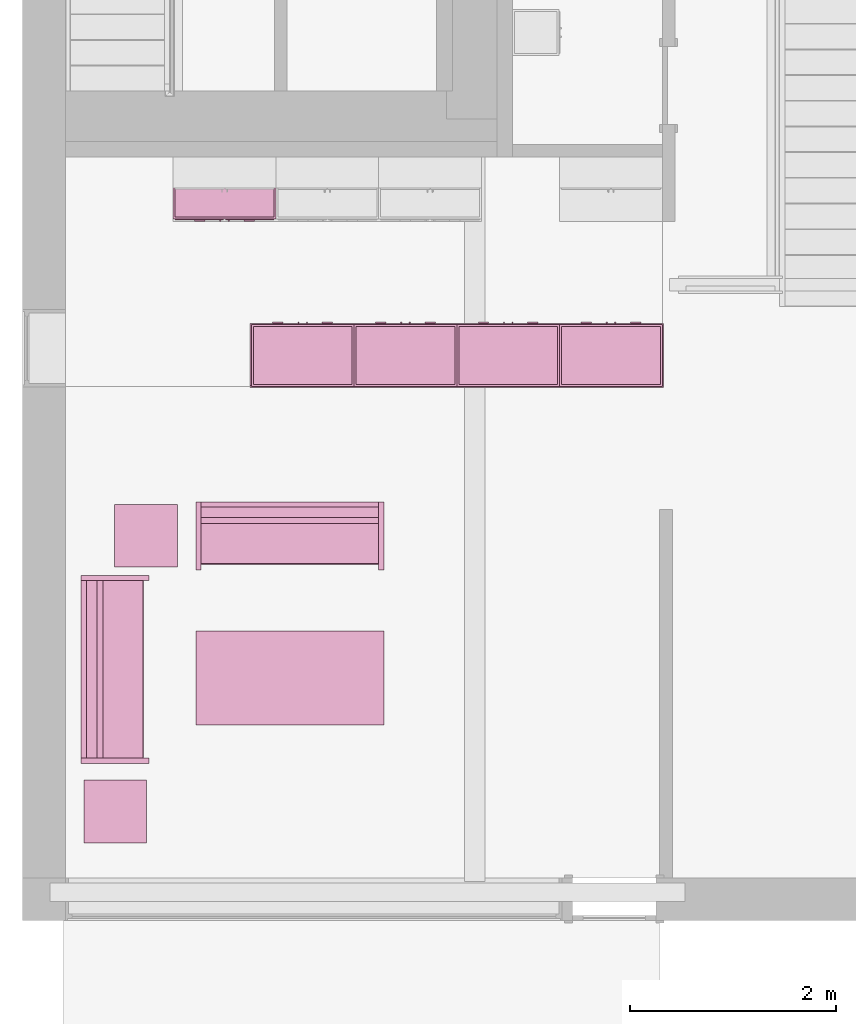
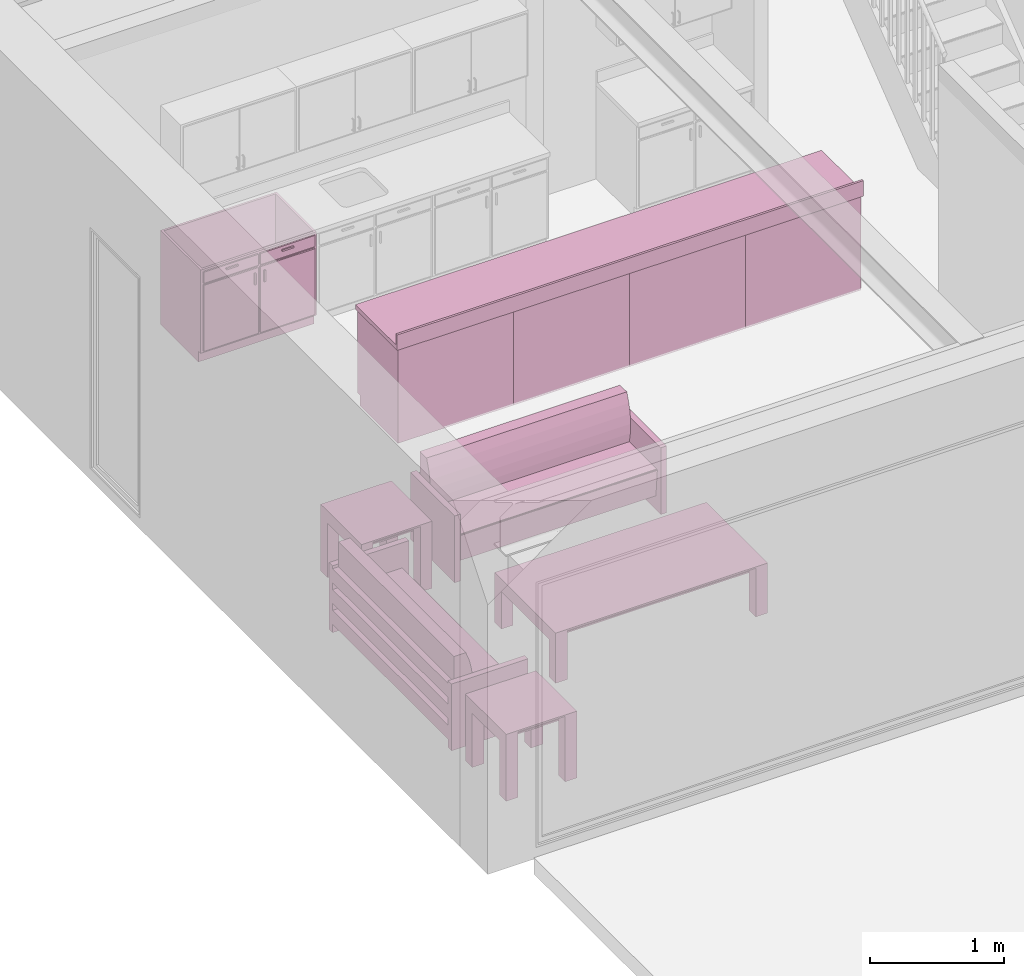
# One storey, part 5 of 14: 11 furnishings.
"""IFC4 building model written with IfcOpenShell, lengths in metres."""

import ifcopenshell
import ifcopenshell.guid

model = None  # the IFC model being written
_history = None  # IfcOwnerHistory: only IFC2X3 demands one
_inside = {}  # id of a spatial element -> (the spatial element, [elements in it])
_under = {}  # id of a project, library or spatial element -> (it, [spatial elements below it])
_declared = {}  # id of a project -> (the project, [libraries it declares])
_typed = {}  # id of a type object -> (the type object, [elements of that type])
_made_of = {}  # id of a material, layer set ... -> (it, [elements and type objects made of it])


def new_model(schema):
    """Start an empty IFC model of exactly this schema.

    Asked for "IFC4X3", IfcOpenShell would pick the latest addendum, in which some entities
    have other attributes; the version numbers below select the first issue.
    IFC2X3 requires an IfcOwnerHistory on every rooted entity: one is made here for all.
    """
    global model, _history
    if schema == "IFC4X3":
        model = ifcopenshell.file(schema_version=(4, 3, 0, 0))
    else:
        model = ifcopenshell.file(schema=schema)
    _inside.clear()
    _under.clear()
    _declared.clear()
    _typed.clear()
    _made_of.clear()
    _history = None
    if model.schema == "IFC2X3":
        org = make("IfcOrganization", Name="unknown")
        user = make(
            "IfcPersonAndOrganization",
            ThePerson=make("IfcPerson", FamilyName="unknown"),
            TheOrganization=org,
        )
        app = make(
            "IfcApplication",
            ApplicationDeveloper=org,
            Version="unknown",
            ApplicationFullName="unknown",
            ApplicationIdentifier="unknown",
        )
        _history = make(
            "IfcOwnerHistory",
            OwningUser=user,
            OwningApplication=app,
            ChangeAction="ADDED",
            CreationDate=0,
        )
    return model


def make(cls, **values):
    """One entity of the class cls with the attributes given. An attribute that is None is left unset."""
    return model.create_entity(
        cls, **{name: value for name, value in values.items() if value is not None}
    )


def entity(cls, *values):
    """Any entity or typed value of the class cls, its attributes in the order of the schema. None: left unset."""
    e = model.create_entity(cls)
    for i, value in enumerate(values):
        if value is not None:
            e[i] = value
    return e


def rooted(cls, **values):
    """An entity with a GlobalId (a new one), such as an element, a storey or a relation."""
    return make(cls, GlobalId=ifcopenshell.guid.new(), OwnerHistory=_history, **values)


def si_unit(unit_type, name, prefix=None):
    """IfcSIUnit, for example si_unit("LENGTHUNIT", "METRE", prefix="MILLI")."""
    return make("IfcSIUnit", UnitType=unit_type, Prefix=prefix, Name=name)


def converted_unit(unit_type, name, factor, base, dimensions=None, offset=None):
    """IfcConversionBasedUnit, such as the inch: factor (a typed value) times the base unit."""
    return make(
        "IfcConversionBasedUnit"
        if offset is None
        else "IfcConversionBasedUnitWithOffset",
        ConversionOffset=offset,
        Dimensions=None
        if dimensions is None
        else entity("IfcDimensionalExponents", *dimensions),
        UnitType=unit_type,
        Name=name,
        ConversionFactor=make(
            "IfcMeasureWithUnit", ValueComponent=factor, UnitComponent=base
        ),
    )


def assignment(units):
    """IfcUnitAssignment: the units of a project."""
    return None if units is None else make("IfcUnitAssignment", Units=units)


def point(xyz):
    """IfcCartesianPoint."""
    return None if xyz is None else make("IfcCartesianPoint", Coordinates=xyz)


def direction(xyz):
    """IfcDirection."""
    return None if xyz is None else make("IfcDirection", DirectionRatios=xyz)


def frame(location, z_axis=None, x_axis=None):
    """IfcAxis2Placement3D, a coordinate frame: its origin and axes. An axis left out is left unset."""
    return make(
        "IfcAxis2Placement3D",
        Location=point(location),
        Axis=direction(z_axis),
        RefDirection=direction(x_axis),
    )


def frame_2d(location, x_axis=None):
    """IfcAxis2Placement2D, a coordinate frame in the plane: its origin and x axis."""
    return make(
        "IfcAxis2Placement2D", Location=point(location), RefDirection=direction(x_axis)
    )


def origin():
    """The frame at (0, 0, 0) with its axes left unset."""
    return frame((0.0, 0.0, 0.0))


def origin_2d_with_axis():
    """The frame at (0, 0) in the plane with the x axis (1, 0) written out."""
    return frame_2d((0.0, 0.0), x_axis=(1.0, 0.0))


def place(relative_to, where):
    """IfcLocalPlacement: puts the frame where relative to a parent placement (None: the world)."""
    return make(
        "IfcLocalPlacement", PlacementRelTo=relative_to, RelativePlacement=where
    )


def context(
    kind, dimensions, precision=None, world=None, true_north=None, identifier=None
):
    """IfcGeometricRepresentationContext, for example the 3D "Model" context."""
    return make(
        "IfcGeometricRepresentationContext",
        ContextIdentifier=identifier,
        ContextType=kind,
        CoordinateSpaceDimension=dimensions,
        Precision=precision,
        WorldCoordinateSystem=world,
        TrueNorth=true_north,
    )


def project(units=None, contexts=None):
    """IfcProject with its units and contexts."""
    return rooted(
        "IfcProject",
        Name="project",
        RepresentationContexts=contexts,
        UnitsInContext=assignment(units),
    )


def spatial(cls, under=None, at=None, **own):
    """A site, building, storey or space (cls), placed at a placement, below another one or the project."""
    s = rooted(cls, ObjectPlacement=at, **own)
    if under is not None:
        _under.setdefault(under.id(), (under, []))[1].append(s)
    return s


def polyline(points):
    """IfcPolyline through the points."""
    return make("IfcPolyline", Points=[point(p) for p in points])


def profile(cls, at=None, kind="AREA", **sizes):
    """A parametric profile (cls). Its sizes go by their IFC names, for example OverallWidth=200.0."""
    return make(cls, ProfileType=kind, Position=at, **sizes)


def rectangle(**sizes):
    """IfcRectangleProfileDef."""
    return profile("IfcRectangleProfileDef", **sizes)


def outline(outer, holes=None, kind="AREA"):
    """IfcArbitraryClosedProfileDef: a profile drawn as a closed curve; with holes, ...WithVoids."""
    if holes is None:
        return make("IfcArbitraryClosedProfileDef", ProfileType=kind, OuterCurve=outer)
    return make(
        "IfcArbitraryProfileDefWithVoids",
        ProfileType=kind,
        OuterCurve=outer,
        InnerCurves=holes,
    )


def extrude(swept, where, along, depth):
    """IfcExtrudedAreaSolid: the profile swept, set in the frame where, extruded along a direction by depth."""
    return make(
        "IfcExtrudedAreaSolid",
        SweptArea=swept,
        Position=where,
        ExtrudedDirection=direction(along),
        Depth=depth,
    )


def faces_of(points, faces, orient=None, outer=None):
    """IfcFace entities. A face is a list of loops; a loop is a list of indices into points, from 0.

    orient and outer hold one flag for each loop. By default every Orientation is true, the
    first loop of a face is its IfcFaceOuterBound and the others are IfcFaceBound.
    """
    made = []
    for i, loops in enumerate(faces):
        bounds = []
        for j, loop in enumerate(loops):
            is_outer = j == 0 if outer is None else outer[i][j]
            bounds.append(
                make(
                    "IfcFaceOuterBound" if is_outer else "IfcFaceBound",
                    Bound=make("IfcPolyLoop", Polygon=[points[k] for k in loop]),
                    Orientation=True if orient is None else orient[i][j],
                )
            )
        made.append(make("IfcFace", Bounds=bounds))
    return made


def face_set(faces, orient=None, outer=None):
    """The faces of one IfcConnectedFaceSet. surface_model builds it on its shared points."""
    return ("IfcConnectedFaceSet", faces, orient, outer)


def surface_model(cls, points, shells):
    """IfcFaceBasedSurfaceModel or IfcShellBasedSurfaceModel (cls): surfaces that need not close."""
    shared = [point(p) for p in points]
    made = [make(c, CfsFaces=faces_of(shared, fs, o, b)) for c, fs, o, b in shells]
    if cls == "IfcFaceBasedSurfaceModel":
        return make(cls, FbsmFaces=made)
    return make(cls, SbsmBoundary=made)


def shape(context_of_items, identifier, shape_type, items):
    """IfcShapeRepresentation: the items that make up one representation, for example the "Body"."""
    return make(
        "IfcShapeRepresentation",
        ContextOfItems=context_of_items,
        RepresentationIdentifier=identifier,
        RepresentationType=shape_type,
        Items=items,
    )


def source(mapping_origin, context_of_items, identifier, shape_type, items):
    """IfcRepresentationMap: a shape defined once, which mapped items show again and again."""
    return make(
        "IfcRepresentationMap",
        MappingOrigin=mapping_origin,
        MappedRepresentation=shape(context_of_items, identifier, shape_type, items),
    )


def transform(
    local_origin,
    x_axis=None,
    y_axis=None,
    z_axis=None,
    scale=None,
    scale2=None,
    scale3=None,
    uniform=True,
):
    """IfcCartesianTransformationOperator3D, or its non-uniform kind. x_axis, y_axis, z_axis: its Axis1, 2, 3."""
    if uniform:
        return make(
            "IfcCartesianTransformationOperator3D",
            Axis1=direction(x_axis),
            Axis2=direction(y_axis),
            LocalOrigin=point(local_origin),
            Scale=scale,
            Axis3=direction(z_axis),
        )
    return make(
        "IfcCartesianTransformationOperator3DnonUniform",
        Axis1=direction(x_axis),
        Axis2=direction(y_axis),
        LocalOrigin=point(local_origin),
        Scale=scale,
        Axis3=direction(z_axis),
        Scale2=scale2,
        Scale3=scale3,
    )


def mapped(mapping_source, mapping_target):
    """IfcMappedItem: shows the shape of a source again, moved by a transform."""
    return make(
        "IfcMappedItem", MappingSource=mapping_source, MappingTarget=mapping_target
    )


def made_of(thing, what):
    """Note that an element or type object is made of a material, layer set ...; save() writes the relation."""
    if what is not None:
        _made_of.setdefault(what.id(), (what, []))[1].append(thing)
    return thing


def element(
    cls,
    number,
    at=None,
    inside=None,
    cuts=None,
    type_object=None,
    material=None,
    context=None,
    identifier="Body",
    shape_type=None,
    held_by="IfcProductDefinitionShape",
    body=None,
    shapes=None,
    **own,
):
    """One element of the class cls, such as IfcWall. Its Tag is "e" and its number.

    at: its placement. inside: the storey or other place that contains it. cuts: it is an
    opening in that element (IfcRelVoidsElement). A single representation is given by context,
    identifier, shape_type and body (its items); several are given by shapes. held_by: the class
    of the entity that holds the representations. save() writes the other relations.
    """
    e = rooted(cls, Tag="e%d" % number, ObjectPlacement=at, **own)
    if body is not None:
        shapes = [shape(context, identifier, shape_type, body)]
    if shapes is not None:
        e.Representation = make(held_by, Representations=shapes)
    if inside is not None:
        _inside.setdefault(inside.id(), (inside, []))[1].append(e)
    if cuts is not None:
        rooted(
            "IfcRelVoidsElement", RelatingBuildingElement=cuts, RelatedOpeningElement=e
        )
    if type_object is not None:
        _typed.setdefault(type_object.id(), (type_object, []))[1].append(e)
    return made_of(e, material)


def aggregate(whole, parts):
    """IfcRelAggregates: a whole, such as a stair, and the parts it consists of."""
    return rooted("IfcRelAggregates", RelatingObject=whole, RelatedObjects=parts)


def save(model, path):
    """Write the relations noted so far, then the file.

    IfcRelAggregates (storeys below a building ...), IfcRelContainedInSpatialStructure (elements
    in a storey), IfcRelDefinesByType, IfcRelAssociatesMaterial and IfcRelDeclares: one each for
    every whole, place, type object, material and project.
    """
    for whole, parts in _under.values():
        aggregate(whole, parts)
    for where, things in _inside.values():
        rooted(
            "IfcRelContainedInSpatialStructure",
            RelatedElements=things,
            RelatingStructure=where,
        )
    for kind, things in _typed.values():
        rooted("IfcRelDefinesByType", RelatedObjects=things, RelatingType=kind)
    for what, things in _made_of.values():
        rooted("IfcRelAssociatesMaterial", RelatedObjects=things, RelatingMaterial=what)
    for by, libraries in _declared.values():
        rooted("IfcRelDeclares", RelatingContext=by, RelatedDefinitions=libraries)
    model.write(path)


model = new_model("IFC4")

# Units and contexts
model_context = context("Model", 3, precision=1e-09, world=origin())
plan_context = context("Plan", 3, precision=1e-09, world=origin())
ifc_project = project(units=[si_unit("LENGTHUNIT", "METRE"), si_unit("AREAUNIT", "SQUARE_METRE"), si_unit("VOLUMEUNIT", "CUBIC_METRE"), converted_unit("PLANEANGLEUNIT", "DEGREE", entity("IfcRatioMeasure", 0.01745329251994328), si_unit("PLANEANGLEUNIT", "RADIAN"), dimensions=[0, 0, 0, 0, 0, 0, 0]), si_unit("TIMEUNIT", "SECOND")], contexts=[model_context, plan_context])

# Site, building, storey, space
site_placement = place(None, origin())
site = spatial("IfcSite", under=ifc_project, at=site_placement, Name="Default", CompositionType="ELEMENT")
building_placement = place(site_placement, origin())
building = spatial("IfcBuilding", under=site, at=building_placement, CompositionType="ELEMENT")
storey_placement = place(building_placement, origin())
storey = spatial("IfcBuildingStorey", under=building, at=storey_placement, Name="Level 1", CompositionType="ELEMENT", Elevation=0.0)
space_1_placement = place(storey_placement, origin())
space_1 = spatial("IfcSpace", under=storey, at=space_1_placement, Name="A103", CompositionType="ELEMENT", PredefinedType="INTERNAL")

# Furnishings
shared_shape_1 = source(origin(), model_context, "Body", "SurfaceModel", [
    surface_model("IfcFaceBasedSurfaceModel", [(0.9809499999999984, 0.04445000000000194, 0.8600000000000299), (0.9809499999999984, 0.04445000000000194, 0.0999999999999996), (0.01905000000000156, 0.04445000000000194, 0.0999999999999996), (0.01905000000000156, 0.04445000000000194, 0.8600000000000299), (1.0, 0.02540000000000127, 0.8600000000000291), (0.0, 0.02540000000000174, 0.8600000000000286), (1.0, 0.02540000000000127, 0.0999999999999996), (0.0, 0.02540000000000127, 0.09999999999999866), (0.01905000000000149, 0.606349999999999, 0.8600000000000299), (0.01905000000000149, 0.606349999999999, 0.09999999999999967), (0.01905000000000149, 0.06040000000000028, 0.0999999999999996), (0.0, 0.6253999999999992, 0.8600000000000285), (0.0, 0.6254000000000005, 0.0), (0.0, 0.06040000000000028, 0.0), (0.0, 0.06040000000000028, 0.09999999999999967), (0.9809499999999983, 0.6063499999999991, 0.8600000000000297), (0.9809499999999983, 0.6063499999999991, 0.09999999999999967), (1.0, 0.6253999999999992, 0.8600000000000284), (1.0, 0.6253999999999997, 0.0), (0.9809499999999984, 0.06040000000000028, 0.09999999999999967), (1.0, 0.06040000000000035, 0.09999999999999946), (1.0, 0.06040000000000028, 0.0), (0.3103250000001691, 0.0, 0.815550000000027), (0.3103250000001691, 0.0, 0.8028500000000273), (0.2087250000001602, 0.0, 0.8028500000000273), (0.2087250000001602, 0.0, 0.815550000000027), (0.7912750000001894, 0.0, 0.815550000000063), (0.7912750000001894, 0.0, 0.8028500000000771), (0.6896750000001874, 0.0, 0.8028500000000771), (0.6896750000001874, 0.0, 0.815550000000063), (0.4650750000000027, 0.0, 0.6822000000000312), (0.4650750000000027, 0.0, 0.5806000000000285), (0.4523750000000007, 0.0, 0.5806000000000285), (0.4523750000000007, 0.0, 0.6822000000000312), (0.5476249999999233, 0.0, 0.6822000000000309), (0.5476249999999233, 0.0, 0.5806000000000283), (0.5349249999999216, 0.0, 0.5806000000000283), (0.5349249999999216, 0.0, 0.6822000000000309), (0.3103250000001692, 0.01270000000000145, 0.815550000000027), (0.3103250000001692, 0.01270000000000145, 0.8028500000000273), (0.2087250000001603, 0.01270000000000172, 0.8028500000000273), (0.2087250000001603, 0.01270000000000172, 0.815550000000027), (0.7912750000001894, 0.01269999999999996, 0.815550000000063), (0.7912750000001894, 0.01269999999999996, 0.8028500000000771), (0.6896750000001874, 0.01270000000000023, 0.8028500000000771), (0.6896750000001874, 0.01270000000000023, 0.815550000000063), (0.4650750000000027, 0.0127000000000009, 0.6822000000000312), (0.4650750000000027, 0.0127000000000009, 0.5806000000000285), (0.4523750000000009, 0.0127000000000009, 0.5806000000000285), (0.4523750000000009, 0.0127000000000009, 0.6822000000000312), (0.5476249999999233, 0.01270000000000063, 0.6822000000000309), (0.5476249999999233, 0.01270000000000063, 0.5806000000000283), (0.5349249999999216, 0.01270000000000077, 0.5806000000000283), (0.5349249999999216, 0.01270000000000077, 0.6822000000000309), (0.4904749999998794, 0.0127000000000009, 0.840950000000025), (0.4904749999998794, 0.0127000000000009, 0.7393500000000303), (0.01905000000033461, 0.01270000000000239, 0.7393500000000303), (0.01905000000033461, 0.01270000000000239, 0.840950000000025), (0.9809500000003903, 0.01269999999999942, 0.8409500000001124), (0.9809500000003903, 0.01269999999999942, 0.7393500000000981), (0.509524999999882, 0.0127000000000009, 0.7393500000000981), (0.509524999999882, 0.0127000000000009, 0.8409500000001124), (0.4904749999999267, 0.0127000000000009, 0.7203000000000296), (0.4904749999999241, 0.0127000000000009, 0.119049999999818), (0.01905000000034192, 0.01270000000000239, 0.119049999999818), (0.01905000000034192, 0.01270000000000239, 0.7203000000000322), (0.9809500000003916, 0.01269999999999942, 0.7203000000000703), (0.9809500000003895, 0.01269999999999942, 0.1190499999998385), (0.5095249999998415, 0.0127000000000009, 0.1190499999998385), (0.5095249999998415, 0.0127000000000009, 0.7203000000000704), (0.4904749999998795, 0.02540000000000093, 0.840950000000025), (0.4904749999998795, 0.02540000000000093, 0.7393500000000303), (0.01905000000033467, 0.02540000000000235, 0.7393500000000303), (0.01905000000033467, 0.02540000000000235, 0.840950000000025), (0.9809500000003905, 0.02539999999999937, 0.8409500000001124), (0.9809500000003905, 0.02539999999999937, 0.7393500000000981), (0.5095249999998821, 0.02540000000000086, 0.7393500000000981), (0.5095249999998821, 0.02540000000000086, 0.8409500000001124), (0.4904749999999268, 0.02540000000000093, 0.7203000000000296), (0.4904749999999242, 0.02540000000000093, 0.119049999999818), (0.01905000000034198, 0.02540000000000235, 0.119049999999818), (0.01905000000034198, 0.02540000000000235, 0.7203000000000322), (0.9809500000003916, 0.02539999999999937, 0.7203000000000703), (0.9809500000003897, 0.02539999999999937, 0.1190499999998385), (0.5095249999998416, 0.02540000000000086, 0.1190499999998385), (0.5095249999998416, 0.02540000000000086, 0.7203000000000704), (0.9809499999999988, 0.6063499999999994, 0.1190499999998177), (0.9809499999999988, 0.04445000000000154, 0.1190499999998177), (0.01905000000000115, 0.04445000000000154, 0.1190499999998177), (0.01905000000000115, 0.6063499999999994, 0.1190499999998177), (0.9809499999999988, 0.6063499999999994, 0.09999999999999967), (0.9809499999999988, 0.04445000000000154, 0.09999999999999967), (0.01905000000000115, 0.04445000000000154, 0.09999999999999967), (0.01905000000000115, 0.6063499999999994, 0.09999999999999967)], [face_set([[[0, 1, 2, 3]], [[0, 4, 5, 3]], [[4, 6, 7, 5]], [[2, 1, 6, 7]], [[3, 8, 9, 10, 2]], [[5, 11, 8, 3]], [[7, 5, 11, 12, 13, 14]], [[2, 7, 14, 10]], [[8, 15, 16, 9]], [[11, 17, 15, 8]], [[12, 11, 17, 18]], [[1, 19, 16, 15, 0]], [[0, 15, 17, 4]], [[4, 6, 20, 21, 18, 17]], [[6, 1, 19, 20]], [[10, 9, 16, 19]], [[18, 21, 13, 12]], [[13, 14, 10, 19, 20, 21]]]), face_set([[[22, 23, 24, 25]], [[26, 27, 28, 29]], [[30, 31, 32, 33]], [[34, 35, 36, 37]], [[38, 39, 40, 41]], [[42, 43, 44, 45]], [[46, 47, 48, 49]], [[50, 51, 52, 53]], [[25, 41, 38, 22]], [[24, 40, 41, 25]], [[23, 24, 40, 39]], [[22, 23, 39, 38]], [[29, 45, 42, 26]], [[28, 44, 45, 29]], [[27, 28, 44, 43]], [[26, 27, 43, 42]], [[33, 49, 46, 30]], [[32, 48, 49, 33]], [[31, 32, 48, 47]], [[30, 31, 47, 46]], [[37, 53, 50, 34]], [[36, 52, 53, 37]], [[35, 36, 52, 51]], [[34, 35, 51, 50]]]), face_set([[[54, 55, 56, 57]], [[58, 59, 60, 61]], [[62, 63, 64, 65]], [[66, 67, 68, 69]], [[70, 71, 72, 73]], [[74, 75, 76, 77]], [[78, 79, 80, 81]], [[82, 83, 84, 85]], [[57, 73, 70, 54]], [[56, 57, 73, 72]], [[55, 56, 72, 71]], [[54, 55, 71, 70]], [[61, 77, 74, 58]], [[60, 76, 77, 61]], [[59, 60, 76, 75]], [[58, 59, 75, 74]], [[65, 81, 78, 62]], [[64, 65, 81, 80]], [[63, 64, 80, 79]], [[62, 63, 79, 78]], [[69, 85, 82, 66]], [[68, 84, 85, 69]], [[67, 68, 84, 83]], [[66, 67, 83, 82]]]), face_set([[[86, 87, 88, 89]], [[90, 91, 92, 93]], [[89, 86, 90, 93]], [[88, 89, 93, 92]], [[87, 91, 92, 88]], [[86, 87, 91, 90]]])]),
])
for number, where, z_axis, x_axis in (
    (1, (6.225999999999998, -11.9746, 0.0), (0.0, 0.0, 1.0), (-1.0, 0.0, 0.0)),
    (2, (5.225999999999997, -11.9746, 0.0), (0.0, 0.0, 1.0), (-1.0, 0.0, 0.0)),
    (3, (4.225999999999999, -11.97460000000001, 0.0), (0.0, 0.0, 1.0), (-1.0, 0.0, 0.0)),
    (4, (3.225999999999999, -11.97460000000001, 0.0), (0.0, 0.0, 1.0), (-1.0, 0.0, 0.0)),
):
    element("IfcFurnishingElement", number, at=place(space_1_placement, frame(where, z_axis=z_axis, x_axis=x_axis)), inside=space_1, Name="M_Base Cabinet-Double Door & 2 Drawer:1000mm:1000mm", ObjectType="1000mm", context=model_context, shape_type="MappedRepresentation", body=[
        mapped(shared_shape_1, transform((0.0, 0.0, 0.0), scale=1.0)),
    ])
shared_shape_2 = source(origin(), model_context, "Body", "SurfaceModel", [
    surface_model("IfcFaceBasedSurfaceModel", [(0.9809499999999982, 0.5809499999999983, 0.8600000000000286), (0.01905000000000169, 0.5809499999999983, 0.8600000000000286), (0.01905000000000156, 0.5809499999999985, 0.0999999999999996), (0.9809499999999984, 0.5809499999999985, 0.0999999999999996), (0.0, 0.5999999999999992, 0.8600000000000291), (1.0, 0.5999999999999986, 0.8600000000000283), (0.0, 0.5999999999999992, 0.0999999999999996), (1.0, 0.5999999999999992, 0.09999999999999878), (0.01905000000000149, 0.5650000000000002, 0.09999999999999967), (0.01905000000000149, 0.01905000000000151, 0.0999999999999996), (0.01905000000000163, 0.01905000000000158, 0.8600000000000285), (0.0, 0.0, 0.860000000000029), (0.0, 0.0, 0.0), (0.0, 0.5650000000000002, 0.0), (0.0, 0.5650000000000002, 0.0999999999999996), (0.9809499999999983, 0.01905000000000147, 0.09999999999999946), (0.9809499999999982, 0.01905000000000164, 0.8600000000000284), (1.0, 0.0, 0.8600000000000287), (1.0, 0.0, 0.0), (0.9809499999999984, 0.5650000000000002, 0.09999999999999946), (1.0, 0.5650000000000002, 0.0), (1.0, 0.5650000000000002, 0.09999999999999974), (0.3103250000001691, 0.625399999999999, 0.815550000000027), (0.2087250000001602, 0.6253999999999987, 0.815550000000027), (0.2087250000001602, 0.6253999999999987, 0.8028500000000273), (0.3103250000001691, 0.625399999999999, 0.8028500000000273), (0.7912750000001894, 0.6254000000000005, 0.815550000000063), (0.6896750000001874, 0.6254000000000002, 0.815550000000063), (0.6896750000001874, 0.6254000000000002, 0.8028500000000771), (0.7912750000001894, 0.6254000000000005, 0.8028500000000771), (0.4650750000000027, 0.6253999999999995, 0.6822000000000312), (0.4523750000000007, 0.6253999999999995, 0.6822000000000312), (0.4523750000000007, 0.6253999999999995, 0.5806000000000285), (0.4650750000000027, 0.6253999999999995, 0.5806000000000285), (0.5476249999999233, 0.6253999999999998, 0.6822000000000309), (0.5349249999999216, 0.6253999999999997, 0.6822000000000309), (0.5349249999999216, 0.6253999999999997, 0.5806000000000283), (0.5476249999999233, 0.6253999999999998, 0.5806000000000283), (0.3103250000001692, 0.612699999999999, 0.815550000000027), (0.2087250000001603, 0.6126999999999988, 0.815550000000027), (0.2087250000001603, 0.6126999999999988, 0.8028500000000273), (0.3103250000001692, 0.612699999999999, 0.8028500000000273), (0.7912750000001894, 0.6127000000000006, 0.815550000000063), (0.6896750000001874, 0.6127000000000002, 0.815550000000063), (0.6896750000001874, 0.6127000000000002, 0.8028500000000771), (0.7912750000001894, 0.6127000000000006, 0.8028500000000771), (0.4650750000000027, 0.6126999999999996, 0.6822000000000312), (0.4523750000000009, 0.6126999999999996, 0.6822000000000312), (0.4523750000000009, 0.6126999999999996, 0.5806000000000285), (0.4650750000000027, 0.6126999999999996, 0.5806000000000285), (0.5476249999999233, 0.6126999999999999, 0.6822000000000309), (0.5349249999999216, 0.6126999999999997, 0.6822000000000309), (0.5349249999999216, 0.6126999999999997, 0.5806000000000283), (0.5476249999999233, 0.6126999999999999, 0.5806000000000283), (0.4904749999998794, 0.6126999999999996, 0.840950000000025), (0.01905000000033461, 0.6126999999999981, 0.840950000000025), (0.01905000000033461, 0.6126999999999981, 0.7393500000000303), (0.4904749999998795, 0.6126999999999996, 0.7393500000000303), (0.9809500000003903, 0.6127000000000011, 0.8409500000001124), (0.509524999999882, 0.6126999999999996, 0.8409500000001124), (0.509524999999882, 0.6126999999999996, 0.7393500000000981), (0.9809500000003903, 0.6127000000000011, 0.7393500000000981), (0.4904749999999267, 0.6126999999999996, 0.7203000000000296), (0.01905000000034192, 0.6126999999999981, 0.7203000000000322), (0.01905000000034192, 0.6126999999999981, 0.119049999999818), (0.4904749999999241, 0.6126999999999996, 0.119049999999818), (0.9809500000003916, 0.6127000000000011, 0.7203000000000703), (0.5095249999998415, 0.6126999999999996, 0.7203000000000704), (0.5095249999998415, 0.6126999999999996, 0.1190499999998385), (0.9809500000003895, 0.6127000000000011, 0.1190499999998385), (0.4904749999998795, 0.5999999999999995, 0.840950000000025), (0.01905000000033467, 0.5999999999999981, 0.840950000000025), (0.01905000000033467, 0.5999999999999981, 0.7393500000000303), (0.4904749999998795, 0.5999999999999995, 0.7393500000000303), (0.9809500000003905, 0.6000000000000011, 0.8409500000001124), (0.5095249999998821, 0.5999999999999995, 0.8409500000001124), (0.5095249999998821, 0.5999999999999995, 0.7393500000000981), (0.9809500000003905, 0.6000000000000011, 0.7393500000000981), (0.4904749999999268, 0.5999999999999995, 0.7203000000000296), (0.01905000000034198, 0.5999999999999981, 0.7203000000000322), (0.01905000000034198, 0.5999999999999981, 0.119049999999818), (0.4904749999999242, 0.5999999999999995, 0.119049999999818), (0.9809500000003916, 0.6000000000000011, 0.7203000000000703), (0.5095249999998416, 0.5999999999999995, 0.7203000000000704), (0.5095249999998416, 0.5999999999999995, 0.1190499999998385), (0.9809500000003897, 0.6000000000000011, 0.1190499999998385), (0.9809499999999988, 0.0190500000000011, 0.1190499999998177), (0.01905000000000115, 0.0190500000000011, 0.1190499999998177), (0.01905000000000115, 0.5809499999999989, 0.1190499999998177), (0.9809499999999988, 0.5809499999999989, 0.1190499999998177), (0.9809499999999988, 0.01905000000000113, 0.09999999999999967), (0.01905000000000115, 0.0190500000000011, 0.09999999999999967), (0.01905000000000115, 0.5809499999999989, 0.09999999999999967), (0.9809499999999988, 0.5809499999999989, 0.09999999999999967)], [face_set([[[0, 1, 2, 3]], [[0, 1, 4, 5]], [[5, 4, 6, 7]], [[2, 6, 7, 3]], [[1, 2, 8, 9, 10]], [[4, 1, 10, 11]], [[6, 4, 11, 12, 13, 14]], [[2, 8, 14, 6]], [[10, 9, 15, 16]], [[11, 10, 16, 17]], [[12, 18, 17, 11]], [[3, 0, 16, 15, 19]], [[0, 5, 17, 16]], [[5, 17, 18, 20, 21, 7]], [[7, 21, 19, 3]], [[8, 19, 15, 9]], [[18, 12, 13, 20]], [[13, 20, 21, 19, 8, 14]]]), face_set([[[22, 23, 24, 25]], [[26, 27, 28, 29]], [[30, 31, 32, 33]], [[34, 35, 36, 37]], [[38, 39, 40, 41]], [[42, 43, 44, 45]], [[46, 47, 48, 49]], [[50, 51, 52, 53]], [[23, 22, 38, 39]], [[24, 23, 39, 40]], [[25, 41, 40, 24]], [[22, 38, 41, 25]], [[27, 26, 42, 43]], [[28, 27, 43, 44]], [[29, 45, 44, 28]], [[26, 42, 45, 29]], [[31, 30, 46, 47]], [[32, 31, 47, 48]], [[33, 49, 48, 32]], [[30, 46, 49, 33]], [[35, 34, 50, 51]], [[36, 35, 51, 52]], [[37, 53, 52, 36]], [[34, 50, 53, 37]]]), face_set([[[54, 55, 56, 57]], [[58, 59, 60, 61]], [[62, 63, 64, 65]], [[66, 67, 68, 69]], [[70, 71, 72, 73]], [[74, 75, 76, 77]], [[78, 79, 80, 81]], [[82, 83, 84, 85]], [[55, 54, 70, 71]], [[56, 72, 71, 55]], [[57, 73, 72, 56]], [[54, 70, 73, 57]], [[59, 58, 74, 75]], [[60, 59, 75, 76]], [[61, 77, 76, 60]], [[58, 74, 77, 61]], [[63, 62, 78, 79]], [[64, 80, 79, 63]], [[65, 81, 80, 64]], [[62, 78, 81, 65]], [[67, 66, 82, 83]], [[68, 67, 83, 84]], [[69, 85, 84, 68]], [[66, 82, 85, 69]]]), face_set([[[86, 87, 88, 89]], [[90, 91, 92, 93]], [[87, 91, 90, 86]], [[88, 92, 91, 87]], [[89, 88, 92, 93]], [[86, 90, 93, 89]]])]),
])
furnishing_1_placement = place(space_1_placement, frame((2.465999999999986, -10.37000000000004, 0.0), z_axis=(0.0, 0.0, 1.0), x_axis=(-1.0, 0.0, 0.0)))
element("IfcFurnishingElement", 5, at=furnishing_1_placement, inside=space_1, Name="M_Base Cabinet-Double Door & 2 Drawer:1000mm:1000mm", ObjectType="1000mm", context=model_context, shape_type="MappedRepresentation", body=[
    mapped(shared_shape_2, transform((0.0, 0.0, 0.0), scale=1.0)),
])
shared_shape_3 = source(origin(), model_context, "Body", "SweptSolid", [
    extrude(rectangle(XDim=0.01905000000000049, YDim=4.023999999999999, at=origin_2d_with_axis()), frame((0.8115377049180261, -0.009525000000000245, 0.8999999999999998), z_axis=(0.0, 0.0, 1.0), x_axis=(0.0, -1.0, 0.0)), (0.0, 0.0, 1.0), 0.1016000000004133),
    extrude(rectangle(XDim=4.023999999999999, YDim=0.6249999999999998, at=origin_2d_with_axis()), frame((0.8115377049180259, -0.3124999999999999, 0.8600000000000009), z_axis=(0.0, 0.0, 1.0), x_axis=(-1.0, 0.0, 0.0)), (0.0, 0.0, 1.0), 0.03999999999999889),
])
furnishing_2_placement = place(space_1_placement, frame((5.037537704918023, -12.612, 0.0), z_axis=(0.0, 0.0, 1.0), x_axis=(-1.0, 0.0, 0.0)))
element("IfcFurnishingElement", 6, at=furnishing_2_placement, inside=space_1, Name="M_Counter Top:600mm Depth:600mm Depth", ObjectType="600mm Depth", context=model_context, shape_type="MappedRepresentation", body=[
    mapped(shared_shape_3, transform((0.0, 0.0, 0.0), scale=1.0)),
])

# Space
space_2_placement = place(storey_placement, origin())
space_2 = spatial("IfcSpace", under=storey, at=space_2_placement, Name="A102", CompositionType="ELEMENT", PredefinedType="INTERNAL")

# Furnishings
shared_shape_4 = source(origin(), model_context, "Body", "SurfaceModel", [
    surface_model("IfcFaceBasedSurfaceModel", [(0.0507999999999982, 0.6095999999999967, 0.5842), (0.05079999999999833, 0.6603999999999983, 0.5842), (0.05079999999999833, 0.6603999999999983, 0.4572000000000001), (0.0507999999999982, 0.6095999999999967, 0.4572000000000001), (0.0507999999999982, 0.6095999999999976, 0.3937000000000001), (0.05079999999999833, 0.6603999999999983, 0.3937000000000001), (0.05079999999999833, 0.6603999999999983, 0.2667), (0.0507999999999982, 0.6095999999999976, 0.2667), (0.0507999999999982, 0.6096000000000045, 0.2032), (0.05079999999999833, 0.6603999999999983, 0.2032), (0.05079999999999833, 0.6603999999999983, 0.0762), (0.0507999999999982, 0.6096000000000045, 0.0762), (1.779199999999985, 0.6095999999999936, 0.5842), (1.779199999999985, 0.6095999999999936, 0.4572000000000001), (1.779199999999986, 0.6603999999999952, 0.4572000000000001), (1.779199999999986, 0.6603999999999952, 0.5842), (1.779199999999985, 0.6095999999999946, 0.3937000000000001), (1.779199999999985, 0.6095999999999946, 0.2667), (1.779199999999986, 0.6603999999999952, 0.2667), (1.779199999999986, 0.6603999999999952, 0.3937000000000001), (1.779199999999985, 0.6096000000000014, 0.2032), (1.779199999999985, 0.6096000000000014, 0.0762), (1.779199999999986, 0.6603999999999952, 0.0762), (1.779199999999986, 0.6603999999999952, 0.2032), (0.05079999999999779, 0.4702223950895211, 0.3809999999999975), (0.05079999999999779, 0.4544013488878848, 0.4678311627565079), (0.05079999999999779, 0.4503004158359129, 0.5559965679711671), (0.05079999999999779, 0.4579928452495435, 0.6439214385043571), (0.05079999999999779, 0.4773412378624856, 0.7300352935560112), (0.05079999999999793, 0.5079999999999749, 0.8127999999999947), (0.05079999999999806, 0.6095999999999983, 0.8127999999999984), (0.05079999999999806, 0.6095999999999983, 0.1279665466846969), (0.05079999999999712, 0.07293755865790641, 0.1279665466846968), (0.05079999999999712, 0.05200794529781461, 0.367193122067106), (0.05079999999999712, 0.0526336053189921, 0.3723822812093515), (0.05079999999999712, 0.05529619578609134, 0.3768799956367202), (0.05079999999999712, 0.05954473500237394, 0.3799244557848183), (0.05079999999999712, 0.06465961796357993, 0.3810000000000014), (1.779199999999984, 0.4702223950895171, 0.3810000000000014), (1.779199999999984, 0.06465961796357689, 0.3810000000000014), (1.779199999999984, 0.05954473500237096, 0.3799244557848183), (1.779199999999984, 0.05529619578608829, 0.3768799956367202), (1.779199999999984, 0.05263360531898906, 0.3723822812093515), (1.779199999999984, 0.05200794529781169, 0.3671931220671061), (1.779199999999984, 0.07293755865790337, 0.1279665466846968), (1.779199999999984, 0.6095999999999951, 0.1279665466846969), (1.779199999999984, 0.6095999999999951, 0.8127999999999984), (1.779199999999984, 0.5079999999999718, 0.8127999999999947), (1.779199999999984, 0.4773412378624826, 0.7300352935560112), (1.779199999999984, 0.4579928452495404, 0.6439214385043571), (1.779199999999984, 0.4503004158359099, 0.5559965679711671), (1.779199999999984, 0.4544013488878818, 0.4678311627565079), (0.05079998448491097, 0.05396489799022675, 0.3746311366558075), (1.779199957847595, 0.05396489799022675, 0.3746311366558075), (0.05079998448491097, 0.05232077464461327, 0.369787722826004), (1.779199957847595, 0.05232077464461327, 0.369787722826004), (1.779199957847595, 0.06210217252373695, 0.3804622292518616), (0.05079998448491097, 0.0621788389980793, 0.3804783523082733), (1.779199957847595, 0.05742046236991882, 0.3784022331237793), (0.05079998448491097, 0.05742046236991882, 0.3784022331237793), (0.05079999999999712, 0.6603999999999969, 0.6096), (0.05079999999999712, 0.0, 0.6096), (0.0, 0.0, 0.6096), (0.0, 0.6603999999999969, 0.6096), (1.829999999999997, 0.6604000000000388, 0.6096), (1.829999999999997, 0.0, 0.6096), (1.779199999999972, 0.0, 0.6096), (1.779199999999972, 0.6604000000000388, 0.6096), (0.05079999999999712, 0.6603999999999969, 0.0), (0.05079999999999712, 0.0, 0.0), (0.0, 0.0, 0.0), (0.0, 0.6603999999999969, 0.0), (1.829999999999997, 0.6604000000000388, 0.0), (1.829999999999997, 0.0, 0.0), (1.779199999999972, 0.0, 0.0), (1.779199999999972, 0.6604000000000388, 0.0)], [face_set([[[0, 1, 2, 3]], [[4, 5, 6, 7]], [[8, 9, 10, 11]], [[12, 13, 14, 15]], [[16, 17, 18, 19]], [[20, 21, 22, 23]], [[1, 15, 12, 0]], [[2, 14, 15, 1]], [[3, 2, 14, 13]], [[0, 3, 13, 12]], [[5, 19, 16, 4]], [[6, 18, 19, 5]], [[7, 6, 18, 17]], [[4, 7, 17, 16]], [[9, 23, 20, 8]], [[10, 22, 23, 9]], [[11, 10, 22, 21]], [[8, 11, 21, 20]]]), face_set([[[24, 25, 26, 27, 28, 29, 30, 31, 32, 33, 34, 35, 36, 37]], [[38, 39, 40, 41, 42, 43, 44, 45, 46, 47, 48, 49, 50, 51]], [[24, 25, 51, 38]], [[25, 26, 50, 51]], [[49, 50, 26, 27]], [[27, 28, 48, 49]], [[28, 29, 47, 48]], [[30, 46, 47, 29]], [[31, 30, 46, 45]], [[32, 31, 45, 44]], [[33, 32, 44, 43]], [[41, 35, 52, 53]], [[54, 55, 42, 34]], [[33, 43, 55, 54]], [[34, 42, 53, 52]], [[39, 56, 57]], [[35, 41, 58, 59]], [[56, 40, 36]], [[57, 37, 39]], [[57, 56, 36]], [[40, 36, 59, 58]], [[24, 38, 39, 37]]]), face_set([[[60, 61, 62, 63]], [[64, 65, 66, 67]], [[68, 69, 70, 71]], [[72, 73, 74, 75]], [[63, 60, 68, 71]], [[62, 63, 71, 70]], [[61, 62, 70, 69]], [[60, 68, 69, 61]], [[67, 64, 72, 75]], [[66, 74, 75, 67]], [[65, 66, 74, 73]], [[64, 65, 73, 72]]])]),
])
furnishing_3_placement = place(space_2_placement, frame((1.231099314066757, -16.27038266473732, 0.0), z_axis=(0.0, 0.0, 1.0), x_axis=(0.0, 1.0, 0.0)))
element("IfcFurnishingElement", 7, at=furnishing_3_placement, inside=space_2, Name="M_Sofa:1830mm:1830mm", ObjectType="1830mm", context=model_context, shape_type="MappedRepresentation", body=[
    mapped(shared_shape_4, transform((0.0, 0.0, 0.0), scale=1.0)),
])
furnishing_4_placement = place(space_2_placement, frame((1.685899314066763, -14.38558266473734, 0.0)))
element("IfcFurnishingElement", 8, at=furnishing_4_placement, inside=space_2, Name="M_Sofa:1830mm:1830mm", ObjectType="1830mm", context=model_context, shape_type="MappedRepresentation", body=[
    mapped(shared_shape_4, transform((0.0, 0.0, 0.0), scale=1.0)),
])
shared_shape_5 = source(origin(), model_context, "Body", "SweptSolid", [
    extrude(rectangle(XDim=0.4067999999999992, YDim=0.4067999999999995, at=origin_2d_with_axis()), frame((0.01826576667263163, 0.09521107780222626, 0.4957000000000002), z_axis=(0.0, 0.0, 1.0), x_axis=(-1.0, 0.0, 0.0)), (0.0, 0.0, 1.0), 0.01270000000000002),
    extrude(outline(polyline([(-0.2732499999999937, -0.3050000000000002), (0.3240499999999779, -0.3050000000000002), (0.3240499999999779, 0.3049999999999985), (-0.2732499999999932, 0.3049999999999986), (-0.2732499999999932, 0.2034000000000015), (0.2224500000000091, 0.2034000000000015), (0.2224500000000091, -0.2033999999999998), (-0.2732499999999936, -0.2033999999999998), (-0.2732499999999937, -0.3050000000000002)])), frame((0.2216657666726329, 0.09521107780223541, 0.2732499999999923), z_axis=(1.0, 0.0, 0.0), x_axis=(0.0, 0.0, 1.0)), (0.0, 0.0, 1.0), 0.1016),
    extrude(outline(polyline([(-0.3050000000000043, -0.3240500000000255), (0.3049999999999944, -0.3240500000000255), (0.3049999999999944, 0.2732500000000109), (0.2034000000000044, 0.2732500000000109), (0.2034000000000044, -0.2224499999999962), (-0.2033999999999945, -0.2224499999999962), (-0.2033999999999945, 0.2732500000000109), (-0.3050000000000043, 0.2732500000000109), (-0.3050000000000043, -0.3240500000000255)])), frame((-0.2867342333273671, 0.09521107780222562, 0.2732500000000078), z_axis=(1.0, 0.0, 0.0), x_axis=(0.0, -1.0, 0.0)), (0.0, 0.0, 1.0), 0.1016),
    extrude(rectangle(XDim=0.4067999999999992, YDim=0.4067999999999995, at=origin_2d_with_axis()), frame((0.01826576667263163, 0.09521107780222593, 0.5973000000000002), z_axis=(0.0, 0.0, 1.0), x_axis=(-1.0, 0.0, 0.0)), (0.0, 0.0, 1.0), 0.01270000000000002),
    extrude(outline(polyline([(-0.3050000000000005, -0.3050000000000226), (0.3050000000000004, -0.3050000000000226), (0.3050000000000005, 0.3050000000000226), (-0.3050000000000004, 0.3050000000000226), (-0.3050000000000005, -0.3050000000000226)]), holes=[polyline([(-0.203399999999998, -0.2033999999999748), (-0.2033999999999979, 0.2034000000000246), (0.2034000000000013, 0.2034000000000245), (0.2034000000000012, -0.2033999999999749), (-0.203399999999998, -0.2033999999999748)])]), frame((0.01826576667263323, 0.09521107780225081, 0.5973000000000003), z_axis=(0.0, 0.0, 1.0), x_axis=(-1.0, 0.0, 0.0)), (0.0, 0.0, 1.0), 0.01269999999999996),
])
for number, where, z_axis, x_axis, name in (
    (9, (1.219165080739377, -13.96017158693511, 0.0), (0.0, 0.0, 1.0), (-1.0, 0.0, 0.0), "M_Table-Coffee:0610 x 0610 x 0610mm:0610 x 0610 x 0610mm"),
    (10, (0.9191650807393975, -16.64317158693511, 0.0), (0.0, 0.0, 1.0), (-1.0, 0.0, 0.0), "M_Table-Coffee:0610 x 0610 x 0610mm:0610 x 0610 x 0610mm"),
):
    element("IfcFurnishingElement", number, at=place(space_2_placement, frame(where, z_axis=z_axis, x_axis=x_axis)), inside=space_2, Name=name, ObjectType="0610 x 0610 x 0610mm", context=model_context, shape_type="MappedRepresentation", body=[
        mapped(shared_shape_5, transform((0.0, 0.0, 0.0), scale=1.0)),
    ])
shared_shape_6 = source(origin(), model_context, "Body", "SweptSolid", [
    extrude(rectangle(XDim=1.626799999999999, YDim=0.7117999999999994, at=origin_2d_with_axis()), frame((0.01826576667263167, 0.0952110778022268, 0.3427000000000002), z_axis=(0.0, 0.0, 1.0), x_axis=(-1.0, 0.0, 0.0)), (0.0, 0.0, 1.0), 0.01270000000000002),
    extrude(outline(polyline([(-0.1967499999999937, -0.4575000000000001), (0.2475499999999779, -0.4575000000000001), (0.2475499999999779, 0.4574999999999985), (-0.1967499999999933, 0.4574999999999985), (-0.1967499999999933, 0.3559000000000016), (0.145950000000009, 0.3559000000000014), (0.145950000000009, -0.3558999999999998), (-0.1967499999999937, -0.3558999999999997), (-0.1967499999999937, -0.4575000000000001)])), frame((0.8316657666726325, 0.09521107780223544, 0.1967499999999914), z_axis=(1.0, 0.0, 0.0), x_axis=(0.0, 0.0, 1.0)), (0.0, 0.0, 1.0), 0.1016000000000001),
    extrude(outline(polyline([(-0.4575000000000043, -0.2475500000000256), (0.4574999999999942, -0.2475500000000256), (0.4574999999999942, 0.1967500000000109), (0.3559000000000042, 0.1967500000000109), (0.3559000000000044, -0.1459499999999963), (-0.3558999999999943, -0.1459499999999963), (-0.3558999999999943, 0.1967500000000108), (-0.4575000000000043, 0.1967500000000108), (-0.4575000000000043, -0.2475500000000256)])), frame((-0.8967342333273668, 0.09521107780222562, 0.1967500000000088), z_axis=(1.0, 0.0, 0.0), x_axis=(0.0, -1.0, 0.0)), (0.0, 0.0, 1.0), 0.1016000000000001),
    extrude(rectangle(XDim=1.626799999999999, YDim=0.7117999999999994, at=origin_2d_with_axis()), frame((0.01826576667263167, 0.09521107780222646, 0.4443000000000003), z_axis=(0.0, 0.0, 1.0), x_axis=(-1.0, 0.0, 0.0)), (0.0, 0.0, 1.0), 0.01270000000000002),
    extrude(outline(polyline([(-0.9150000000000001, -0.4575000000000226), (0.9150000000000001, -0.4575000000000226), (0.9150000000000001, 0.4575000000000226), (-0.9150000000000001, 0.4575000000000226), (-0.9150000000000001, -0.4575000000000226)]), holes=[polyline([(-0.8133999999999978, -0.3558999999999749), (-0.8133999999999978, 0.3559000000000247), (0.8134000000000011, 0.3559000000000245), (0.8134000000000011, -0.3558999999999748), (-0.8133999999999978, -0.3558999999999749)])]), frame((0.01826576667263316, 0.09521107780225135, 0.4443000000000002), z_axis=(0.0, 0.0, 1.0), x_axis=(-1.0, 0.0, 0.0)), (0.0, 0.0, 1.0), 0.01270000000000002),
])
furnishing_5_placement = place(space_2_placement, frame((2.619165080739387, -15.3431715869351, 0.0), z_axis=(0.0, 0.0, 1.0), x_axis=(-1.0, 0.0, 0.0)))
element("IfcFurnishingElement", 11, at=furnishing_5_placement, inside=space_2, Name="M_Table-Coffee:0915 x 1830 x 0457mm:0915 x 1830 x 0457mm", ObjectType="0915 x 1830 x 0457mm", context=model_context, shape_type="MappedRepresentation", body=[
    mapped(shared_shape_6, transform((0.0, 0.0, 0.0), scale=1.0)),
])

save(model, "model.ifc")
